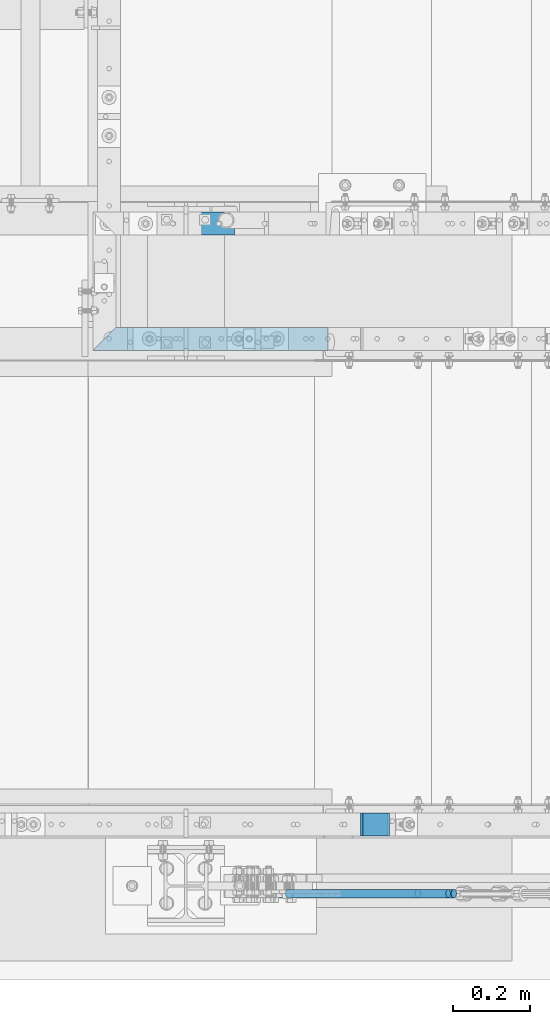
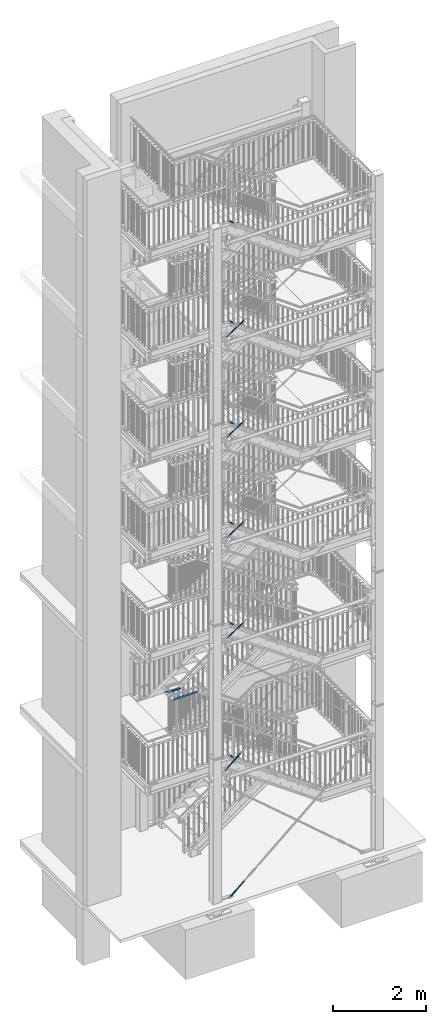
# One storey, part 137 of 831: 12 members, 2 beams.
"""IFC2X3 building model written with IfcOpenShell, lengths in millimetres."""

from ifc_helpers import new_model, entity, si_unit, converted_unit, frame, origin, origin_with_axes, origin_2d, place, context, project, spatial, rectangle, circle, extrude, clip, halfspace, material, element, save


model = new_model("IFC2X3")

# Units and contexts
model_context = context("Model", 3, precision=1e-09, world=origin_with_axes())
ifc_project = project(units=[si_unit("LENGTHUNIT", "METRE", prefix="MILLI"), si_unit("AREAUNIT", "SQUARE_METRE"), si_unit("VOLUMEUNIT", "CUBIC_METRE"), converted_unit("PLANEANGLEUNIT", "DEGREE", entity("IfcPlaneAngleMeasure", 0.01745329), si_unit("PLANEANGLEUNIT", "RADIAN"), dimensions=[0, 0, 0, 0, 0, 0, 0])], contexts=[model_context])

# Site, building, storey
site_placement = place(None, origin_with_axes())
site = spatial("IfcSite", under=ifc_project, at=site_placement, Name="Site", CompositionType="ELEMENT")
building_placement = place(site_placement, origin_with_axes())
building = spatial("IfcBuilding", under=site, at=building_placement, Name="Struktur 1", CompositionType="ELEMENT")
storey_placement = place(building_placement, origin_with_axes())
storey = spatial("IfcBuildingStorey", under=building, at=storey_placement, Name="Default Storey", CompositionType="ELEMENT", Elevation=0.0)

# Members
ifc_material = material(Name="S235JR")
member_1_placement = place(None, frame((5384.359911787, 4526.736971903, 15227.36215025), z_axis=(0.810033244, 0.0, -0.586383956), x_axis=(-0.586383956, 0.0, -0.810033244)))
element("IfcMember", 1, at=member_1_placement, inside=storey, material=ifc_material, Name="Railing_Kneerail_Stair#17", ObjectType="Railing_Kneerail_Stair#17", context=model_context, shape_type="SweptSolid", body=[
    extrude(rectangle(XDim=10.0, YDim=60.0, at=origin_2d()), origin(), (0.0, 0.0, -1.0), 86.441682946),
])
member_2_placement = place(None, frame((5384.370895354, 4526.736971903, 17847.805904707), z_axis=(0.811618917, 0.0, -0.584187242), x_axis=(-0.584187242, 0.0, -0.811618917)))
element("IfcMember", 2, at=member_2_placement, inside=storey, material=ifc_material, Name="Railing_Kneerail_Stair#17", ObjectType="Railing_Kneerail_Stair#17", context=model_context, shape_type="SweptSolid", body=[
    extrude(rectangle(XDim=10.0, YDim=60.0, at=origin_2d()), origin(), (0.0, 0.0, -1.0), 86.02069037),
])
member_3_placement = place(None, frame((5380.542886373, 4526.736971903, 3864.391894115), z_axis=(0.814635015, 0.0, -0.579973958), x_axis=(-0.579973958, 0.0, -0.814635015)))
element("IfcMember", 3, at=member_3_placement, inside=storey, material=ifc_material, Name="Railing_Kneerail_Stair#15", ObjectType="Railing_Kneerail_Stair#15", context=model_context, shape_type="SweptSolid", body=[
    extrude(rectangle(XDim=10.0, YDim=60.0, at=origin_2d()), origin(), (0.0, 0.0, -1.0), 80.488581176),
])
member_4_placement = place(None, frame((5384.416190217, 4526.736971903, 7335.61551807), z_axis=(0.818063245, 0.0, -0.57512827), x_axis=(-0.57512827, 0.0, -0.818063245)))
element("IfcMember", 4, at=member_4_placement, inside=storey, material=ifc_material, Name="Railing_Kneerail_Stair#17", ObjectType="Railing_Kneerail_Stair#17", context=model_context, shape_type="SweptSolid", body=[
    extrude(rectangle(XDim=10.0, YDim=60.0, at=origin_2d()), origin(), (0.0, 0.0, -1.0), 84.285194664),
])
for number, where, z_axis, x_axis in (
    (5, (5175.777044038, 4346.736971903, 334.665258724), (-0.757867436, 0.0, -0.652408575), (0.652408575, 0.0, -0.757867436)),
    (6, (5121.628832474, 4346.736971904, 7158.879629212), (-0.836006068, 0.0, -0.548720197), (0.548720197, 0.0, -0.836006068)),
    (7, (5082.966649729, 4346.736971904, 3707.954491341), (-0.755906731, 0.0, -0.654679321), (0.654679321, 0.0, -0.755906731)),
    (8, (5121.780223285, 4346.736971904, 9790.648476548), (-0.836484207, 0.0, -0.547991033), (0.547991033, 0.0, -0.836484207)),
    (9, (5121.538060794, 4346.736971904, 12418.018208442), (-0.835719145, 0.0, -0.549157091), (0.549157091, 0.0, -0.835719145)),
    (10, (5121.992412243, 4346.736971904, 15052.324436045), (-0.837153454, 0.0, -0.546968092), (0.546968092, 0.0, -0.837153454)),
):
    element("IfcMember", number, at=place(None, frame(where, z_axis=z_axis, x_axis=x_axis)), inside=storey, material=ifc_material, Name="-", ObjectType="-", context=model_context, shape_type="SweptSolid", body=[
        extrude(circle(Radius=11.0, at=origin_2d()), origin(), (0.0, 0.0, -1.0), 500.0),
    ])

# Beams
beam_1_placement = place(None, frame((4558.701776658, 6091.736971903, 4860.8), z_axis=(-1.0, 0.0, 0.0), x_axis=(0.0, 0.0, -1.0)))
element("IfcBeam", 11, at=beam_1_placement, inside=storey, material=ifc_material, Name="Railing_Kneerail_Landing#1000", ObjectType="Railing_Kneerail_Landing#1000", context=model_context, shape_type="Clipping", body=[
    clip(extrude(rectangle(XDim=10.0, YDim=60.0, at=origin_2d()), origin(), (0.0, 0.0, -1.0), 424.718059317), halfspace(frame((4860.8, 723.761077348, -809.274117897), z_axis=(0.0, -0.707106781, -0.707106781), x_axis=(0.0, -0.707106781, 0.707106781)), True)),
])
beam_2_placement = place(None, frame((5226.741597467, 5791.736971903, 4860.8), z_axis=(1.0, 0.0, 0.0), x_axis=(0.0, 0.0, -1.0)))
element("IfcBeam", 12, at=beam_2_placement, inside=storey, material=ifc_material, Name="Railing_Kneerail_Landing#1006", ObjectType="Railing_Kneerail_Landing#1006", context=model_context, shape_type="Clipping", body=[
    clip(extrude(rectangle(XDim=10.0, YDim=60.0, at=origin_2d()), origin(), (0.0, 0.0, -1.0), 625.539820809), halfspace(frame((4860.8, -5217.975894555, -5800.502674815), z_axis=(0.0, -0.707106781, 0.707106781), x_axis=(0.0, 0.707106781, 0.707106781)), True)),
])

# Members
member_5_placement = place(None, frame((5384.362103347, 4526.736971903, 9965.450850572), z_axis=(0.810350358, 0.0, -0.585945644), x_axis=(-0.585945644, 0.0, -0.810350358)))
element("IfcMember", 13, at=member_5_placement, inside=storey, material=ifc_material, Name="Railing_Kneerail_Stair#17", ObjectType="Railing_Kneerail_Stair#17", context=model_context, shape_type="SweptSolid", body=[
    extrude(rectangle(XDim=10.0, YDim=60.0, at=origin_2d()), origin(), (0.0, 0.0, -1.0), 86.357671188),
])
member_6_placement = place(None, frame((5384.36576167, 4526.736971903, 12592.598740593), z_axis=(0.810878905, 0.0, -0.585213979), x_axis=(-0.585213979, 0.0, -0.810878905)))
element("IfcMember", 14, at=member_6_placement, inside=storey, material=ifc_material, Name="Railing_Kneerail_Stair#17", ObjectType="Railing_Kneerail_Stair#17", context=model_context, shape_type="SweptSolid", body=[
    extrude(rectangle(XDim=10.0, YDim=60.0, at=origin_2d()), origin(), (0.0, 0.0, -1.0), 86.21744481),
])

save(model, "model.ifc")
